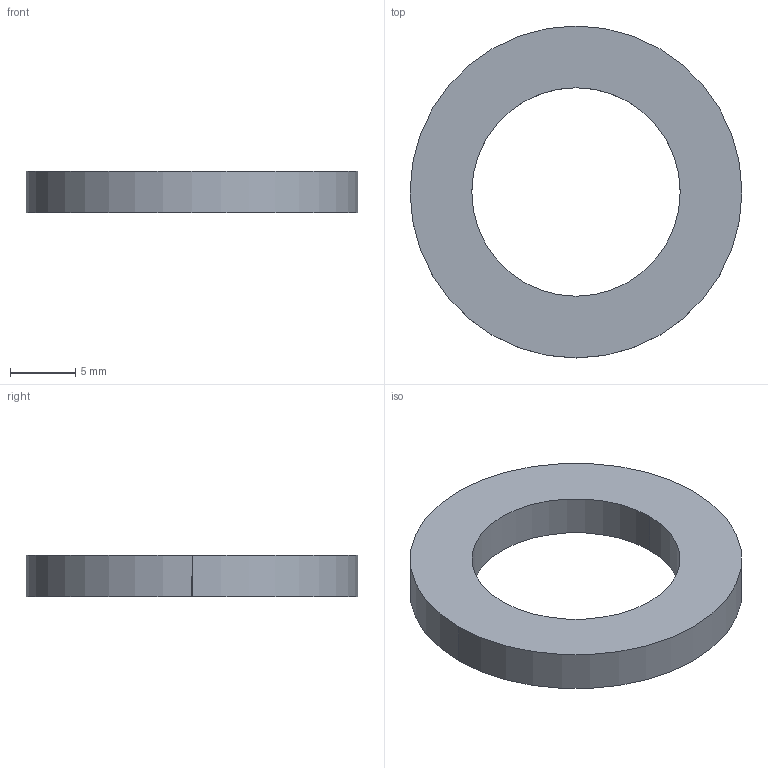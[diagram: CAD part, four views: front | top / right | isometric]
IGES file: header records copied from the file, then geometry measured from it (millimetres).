
Global section: file name: C:\Documents and Settings\Administrator\Desktop\Transfer Temp\tbb-10-16.igs; native system: AutoDesk Inventor R2.0 ; preprocessor: AutoDesk Inventor Iges Exporter R2.0; author: No Author specified; organization: No Organization specified; date: 20011230.161939; units: inch
Bounding box: 25.4 x 25.4 x 3.17 mm (x, y, z)
Surface area: 1026.2 mm2 (no closed solid volume)
Topology: 0 solids, 0 shells, 6 faces, 24 edges, 24 vertices
Faces by surface type: revolution 4, bspline 2
